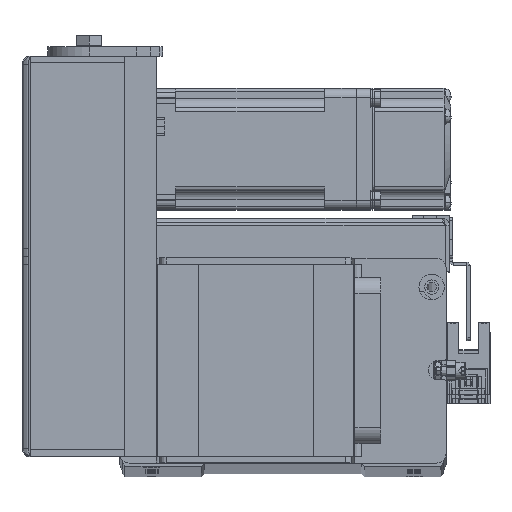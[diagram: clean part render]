
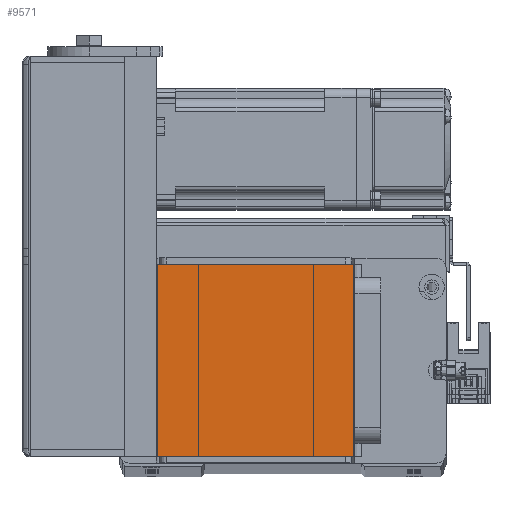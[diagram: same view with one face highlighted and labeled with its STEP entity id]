
A CAD part, top view. The second image highlights one B-rep face of the part: STEP entity #9571.
In plain terms, the highlighted planar face has unit normal (0, 0, 1) as drawn and (0, 1, 0) by its records, which use the part's own axes.
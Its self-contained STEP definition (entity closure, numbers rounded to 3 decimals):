
#295 = VERTEX_POINT ( 'NONE', #33017 ) ;
#1256 = CARTESIAN_POINT ( 'NONE',  ( -30.7, 88., -64. ) ) ;
#1954 = CARTESIAN_POINT ( 'NONE',  ( 30.7, 88., -62. ) ) ;
#2066 = LINE ( 'NONE', #17767, #29180 ) ;
#2496 = PLANE ( 'NONE',  #28760 ) ;
#6797 = ORIENTED_EDGE ( 'NONE', *, *, #8507, .F. ) ;
#8125 = DIRECTION ( 'NONE',  ( -1., 0., 0. ) ) ;
#8507 = EDGE_CURVE ( 'NONE', #295, #32980, #27985, .T. ) ;
#8837 = CARTESIAN_POINT ( 'NONE',  ( -30.7, 88., -2. ) ) ;
#9222 = DIRECTION ( 'NONE',  ( 1., 0., 0. ) ) ;
#9488 = VECTOR ( 'NONE', #9222, 1000. ) ;
#9571 = ADVANCED_FACE ( 'NONE', ( #35267 ), #2496, .T. ) ;
#9973 = ORIENTED_EDGE ( 'NONE', *, *, #13539, .T. ) ;
#10057 = EDGE_CURVE ( 'NONE', #34858, #31206, #36001, .T. ) ;
#11448 = CARTESIAN_POINT ( 'NONE',  ( 30.7, 88., -64. ) ) ;
#12092 = EDGE_CURVE ( 'NONE', #31206, #295, #2066, .T. ) ;
#13539 = EDGE_CURVE ( 'NONE', #34858, #32980, #37367, .T. ) ;
#14571 = CARTESIAN_POINT ( 'NONE',  ( -31., 88., -62. ) ) ;
#17767 = CARTESIAN_POINT ( 'NONE',  ( 30.7, 88., -64. ) ) ;
#22006 = DIRECTION ( 'NONE',  ( -1., 0., 0. ) ) ;
#22038 = ORIENTED_EDGE ( 'NONE', *, *, #12092, .F. ) ;
#24509 = ORIENTED_EDGE ( 'NONE', *, *, #10057, .F. ) ;
#24769 = VECTOR ( 'NONE', #22006, 1000. ) ;
#27003 = EDGE_LOOP ( 'NONE', ( #24509, #9973, #6797, #22038 ) ) ;
#27985 = LINE ( 'NONE', #34111, #24769 ) ;
#28760 = AXIS2_PLACEMENT_3D ( 'NONE', #11448, #32501, #8125 ) ;
#29180 = VECTOR ( 'NONE', #32655, 1000. ) ;
#29252 = VECTOR ( 'NONE', #34221, 1000. ) ;
#31206 = VERTEX_POINT ( 'NONE', #1954 ) ;
#32501 = DIRECTION ( 'NONE',  ( 0., 1., 0. ) ) ;
#32655 = DIRECTION ( 'NONE',  ( 0., 0., 1. ) ) ;
#32980 = VERTEX_POINT ( 'NONE', #8837 ) ;
#33017 = CARTESIAN_POINT ( 'NONE',  ( 30.7, 88., -2. ) ) ;
#33146 = CARTESIAN_POINT ( 'NONE',  ( -30.7, 88., -62. ) ) ;
#34111 = CARTESIAN_POINT ( 'NONE',  ( -31., 88., -2. ) ) ;
#34221 = DIRECTION ( 'NONE',  ( 0., 0., 1. ) ) ;
#34858 = VERTEX_POINT ( 'NONE', #33146 ) ;
#35267 = FACE_OUTER_BOUND ( 'NONE', #27003, .T. ) ;
#36001 = LINE ( 'NONE', #14571, #9488 ) ;
#37367 = LINE ( 'NONE', #1256, #29252 ) ;
